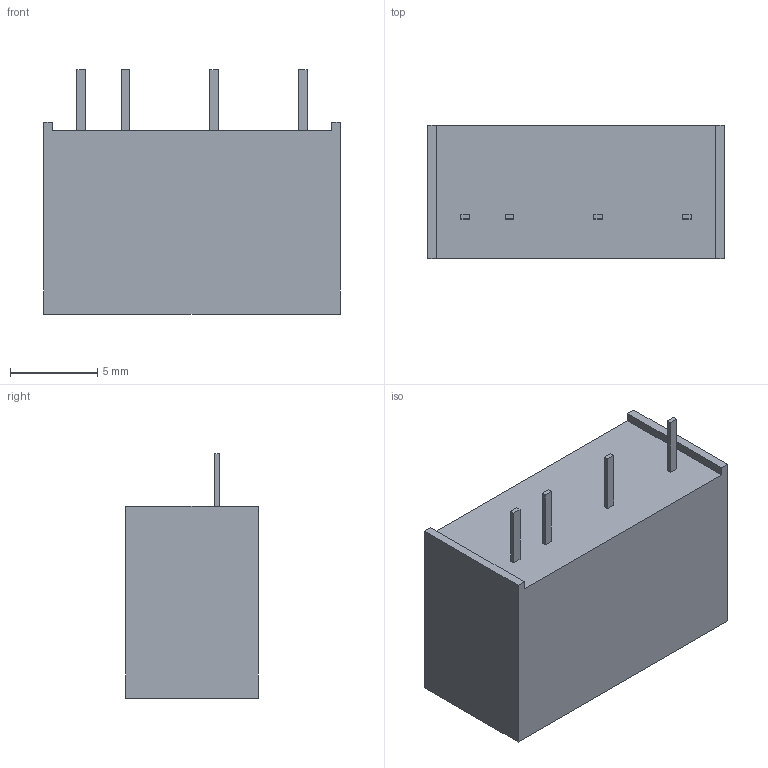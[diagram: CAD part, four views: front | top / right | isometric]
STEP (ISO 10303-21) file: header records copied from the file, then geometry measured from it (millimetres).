
FILE_DESCRIPTION(/* description */ ('Unknown'),/* implementation_level */ '2;1');
FILE_NAME(/* name */ 'ITW(SA)',/* time_stamp */ '2017-12-01T13:25:22+08:00',/* author */ ('Unknown'),/* organization */ ('Unknown'),/* preprocessor_version */ 'ST-DEVELOPER v16.7',/* originating_system */ 'DEX',/* authorisation */ $);
FILE_SCHEMA (('AUTOMOTIVE_DESIGN {1 0 10303 214 3 1 1}'));
Length unit declared in the file: millimetre
Products named in the file (1): ITW(SA)
Bounding box: 17 x 7.62 x 14 mm (x, y, z)
Volume: 1365.7 mm3; surface area: 813.3 mm2
Topology: 1 solids, 1 shells, 30 faces, 72 edges, 48 vertices
Faces by surface type: plane 30
Entity records: 886 total; most frequent: CARTESIAN_POINT 151, ORIENTED_EDGE 144, DIRECTION 134, EDGE_CURVE 72, LINE 72, VECTOR 72, VERTEX_POINT 48, EDGE_LOOP 34
